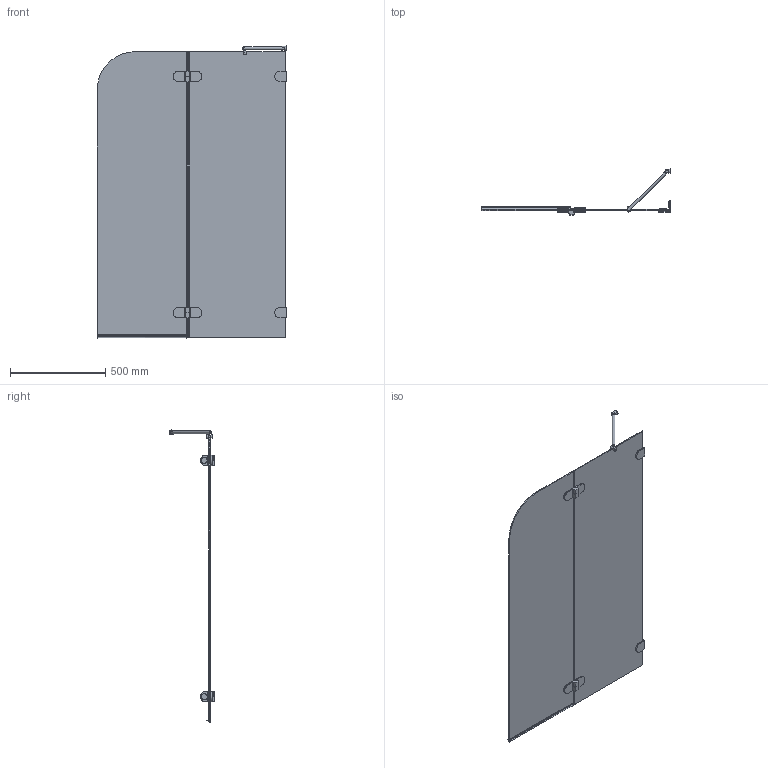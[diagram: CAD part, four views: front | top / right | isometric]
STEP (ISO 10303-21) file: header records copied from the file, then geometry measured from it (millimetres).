
FILE_DESCRIPTION(/* description */ (''),/* implementation_level */ '2;1');
FILE_NAME(/* name */ 'D:\4\17\LUX PEARL GV-002A\LUX PEARL GV-002A правая модель\LUX PEARL GV-002A ПРАВАЯ-3D.stp',/* time_stamp */ '2017-10-12T13:09:19+03:00',/* author */ ('ChechurovS'),/* organization */ (''),/* preprocessor_version */ 'ST-DEVELOPER v15.2',/* originating_system */ 'Autodesk Inventor 2014',/* authorisation */ '');
FILE_SCHEMA (('CONFIG_CONTROL_DESIGN'));
Length unit declared in the file: millimetre
Products named in the file (1): LUX PEARL GV-002A ПРАВАЯ-3D
Bounding box: 995 x 241.4 x 1533.9 mm (x, y, z)
Volume: 9221760.8 mm3; surface area: 3156317.5 mm2
Topology: 9 solids, 9 shells, 307 faces, 803 edges, 532 vertices
Faces by surface type: plane 216, cylinder 74, bspline 6, torus 5, sphere 4, cone 2
Full cylindrical faces by diameter (mm): 15 x1, 20 x2, 26 x1, 35 x2, 40 x2
Entity records: 9955 total; most frequent: CARTESIAN_POINT 2010, ORIENTED_EDGE 1560, DIRECTION 1554, EDGE_CURVE 777, LINE 566, VECTOR 566, VERTEX_POINT 523, AXIS2_PLACEMENT_3D 494
